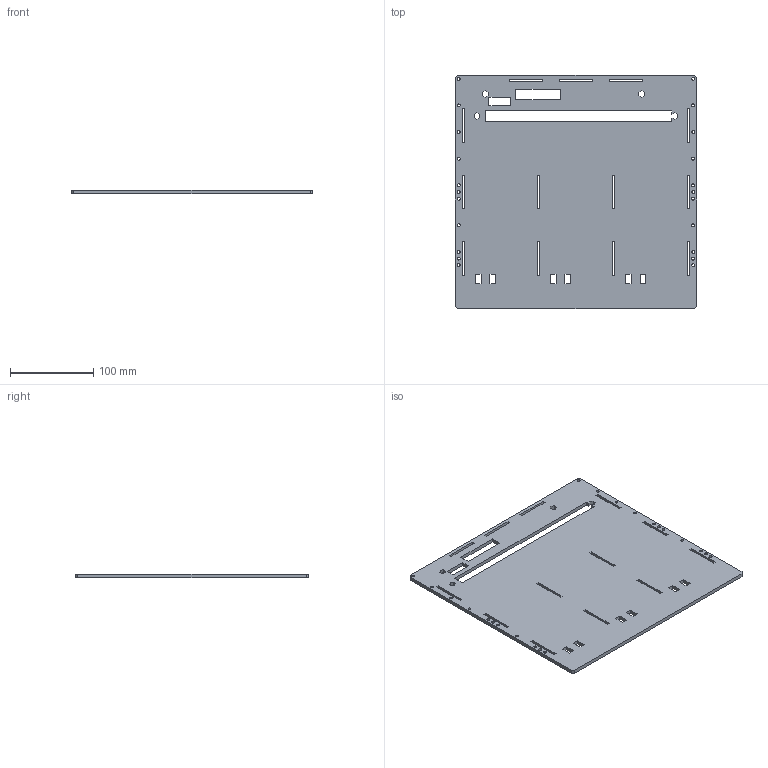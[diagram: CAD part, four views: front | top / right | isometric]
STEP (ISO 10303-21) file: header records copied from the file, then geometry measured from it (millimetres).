
FILE_DESCRIPTION(/* description */ ('STEP AP242 Edition 2','CAx-IF Rec.Pracs.---Representation and Presentation of Product Manufacturing Information (PMI)---4.0---2014-10-13','CAx-IF Rec.Pracs.---3D Tessellated Geometry---0.4---2014-09-14','2;1','CAx-IF Rec.Pracs.---User Defined Attributes---1.5---2016-08-15'),/* implementation_level */ '2;1');
FILE_NAME(/* name */ 'Enclosure - Bottom',/* time_stamp */ '2026-11-16T09:17:36Z',/* author */ (''),/* organization */ (''),/* preprocessor_version */ 'ST-DEVELOPER v20',/* originating_system */ 'ONSHAPE BY PTC INC, 1.223',/* authorisation */ ' ');
FILE_SCHEMA (('AP242_MANAGED_MODEL_BASED_3D_ENGINEERING_MIM_LF { 1 0 10303 442 3 1 4 }'));
Length unit declared in the file: metre
Products named in the file (1): Bottom
Bounding box: 290 x 280 x 4.5 mm (x, y, z)
Volume: 337102 mm3; surface area: 165492 mm2
Topology: 1 solids, 1 shells, 144 faces, 426 edges, 284 vertices
Faces by surface type: plane 122, cylinder 22
Full cylindrical faces by diameter (mm): 3.5 x22
Entity records: 4854 total; most frequent: CARTESIAN_POINT 833, ORIENTED_EDGE 808, DIRECTION 738, EDGE_CURVE 404, LINE 360, VECTOR 360, VERTEX_POINT 284, EDGE_LOOP 260
